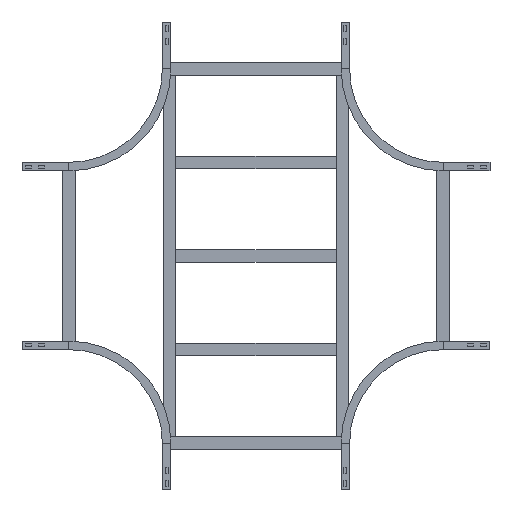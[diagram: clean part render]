
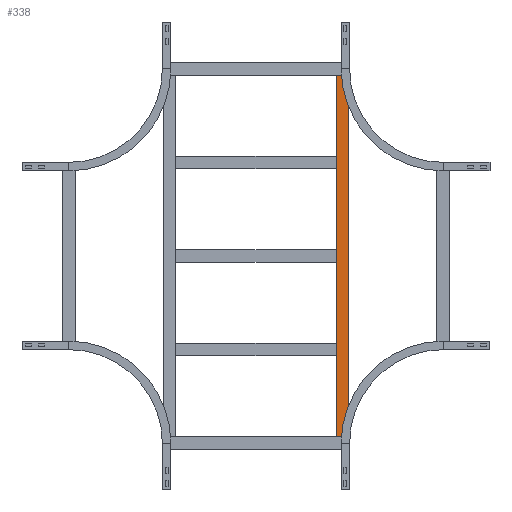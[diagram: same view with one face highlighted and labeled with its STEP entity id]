
A CAD part, front view. The second image highlights one B-rep face of the part: STEP entity #338.
In plain terms, the highlighted planar face has unit normal (0, -1, 0).
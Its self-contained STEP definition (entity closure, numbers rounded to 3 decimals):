
#172 = EDGE_CURVE ( 'NONE', #1064, #387, #1103, .T. ) ;
#188 = PLANE ( 'NONE',  #2110 ) ;
#338 = ADVANCED_FACE ( 'NONE', ( #1928 ), #188, .F. ) ;
#375 = DIRECTION ( 'NONE',  ( 0., 0., -1. ) ) ;
#387 = VERTEX_POINT ( 'NONE', #1979 ) ;
#582 = DIRECTION ( 'NONE',  ( 0., 1., 0. ) ) ;
#648 = EDGE_CURVE ( 'NONE', #2231, #1064, #2219, .T. ) ;
#706 = VECTOR ( 'NONE', #2207, 1000. ) ;
#714 = VECTOR ( 'NONE', #760, 1000. ) ;
#722 = DIRECTION ( 'NONE',  ( 0., 0., -1. ) ) ;
#760 = DIRECTION ( 'NONE',  ( -1., 0., 0. ) ) ;
#869 = VECTOR ( 'NONE', #722, 1000. ) ;
#991 = ORIENTED_EDGE ( 'NONE', *, *, #2012, .F. ) ;
#1064 = VERTEX_POINT ( 'NONE', #1713 ) ;
#1103 = LINE ( 'NONE', #1867, #869 ) ;
#1117 = LINE ( 'NONE', #2123, #714 ) ;
#1165 = CARTESIAN_POINT ( 'NONE',  ( 579.75, 0., 20.25 ) ) ;
#1209 = CARTESIAN_POINT ( 'NONE',  ( 579.75, 0., -20.25 ) ) ;
#1421 = ORIENTED_EDGE ( 'NONE', *, *, #648, .T. ) ;
#1594 = ORIENTED_EDGE ( 'NONE', *, *, #2063, .F. ) ;
#1713 = CARTESIAN_POINT ( 'NONE',  ( -579.75, 0., 20.25 ) ) ;
#1759 = VECTOR ( 'NONE', #375, 1000. ) ;
#1819 = ORIENTED_EDGE ( 'NONE', *, *, #172, .T. ) ;
#1867 = CARTESIAN_POINT ( 'NONE',  ( -579.75, 0., 20.25 ) ) ;
#1928 = FACE_OUTER_BOUND ( 'NONE', #2120, .T. ) ;
#1979 = CARTESIAN_POINT ( 'NONE',  ( -579.75, 0., -20.25 ) ) ;
#2012 = EDGE_CURVE ( 'NONE', #2157, #387, #1117, .T. ) ;
#2063 = EDGE_CURVE ( 'NONE', #2231, #2157, #2298, .T. ) ;
#2110 = AXIS2_PLACEMENT_3D ( 'NONE', #2269, #582, #2321 ) ;
#2120 = EDGE_LOOP ( 'NONE', ( #1819, #991, #1594, #1421 ) ) ;
#2123 = CARTESIAN_POINT ( 'NONE',  ( 579.75, 0., -20.25 ) ) ;
#2157 = VERTEX_POINT ( 'NONE', #1209 ) ;
#2207 = DIRECTION ( 'NONE',  ( -1., 0., 0. ) ) ;
#2219 = LINE ( 'NONE', #2229, #706 ) ;
#2229 = CARTESIAN_POINT ( 'NONE',  ( 579.75, 0., 20.25 ) ) ;
#2231 = VERTEX_POINT ( 'NONE', #2419 ) ;
#2269 = CARTESIAN_POINT ( 'NONE',  ( 579.75, 0., 20.25 ) ) ;
#2298 = LINE ( 'NONE', #1165, #1759 ) ;
#2321 = DIRECTION ( 'NONE',  ( 0., 0., 1. ) ) ;
#2419 = CARTESIAN_POINT ( 'NONE',  ( 579.75, 0., 20.25 ) ) ;
